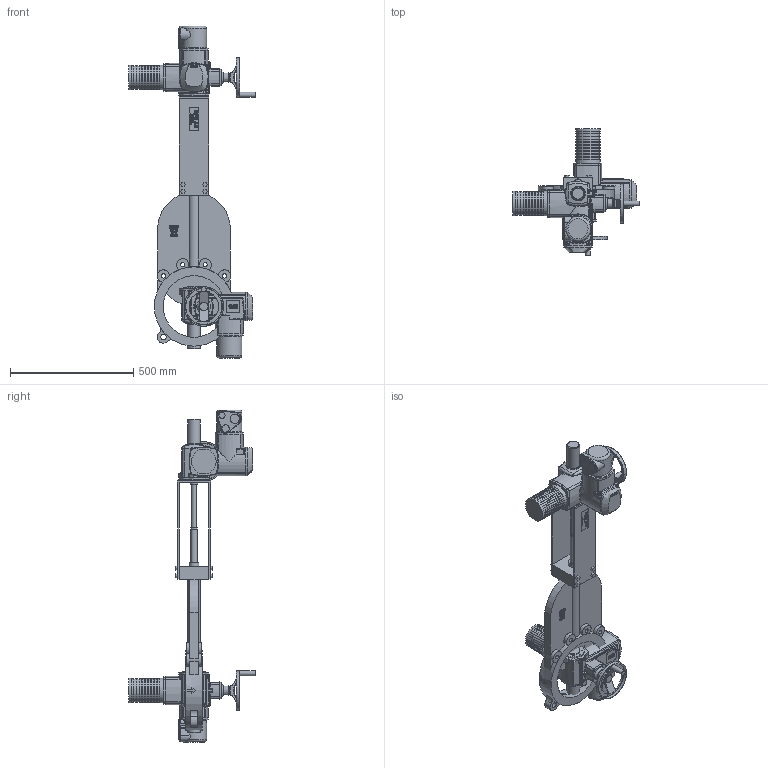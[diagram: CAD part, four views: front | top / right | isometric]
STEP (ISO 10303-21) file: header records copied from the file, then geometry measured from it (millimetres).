
FILE_DESCRIPTION( ( 'Unknown' ), '1' );
FILE_NAME( 'J:/Muud/ROOTSI BPS 3D vidinad/Nugasiibrid/Knife gate valve with electric actuator BPS/STEP formaat/BPS 2010250E knife gate valve DN250.stp', 'Unknown', ( 'Unknown' ), ( 'Unknown' ), 'PSStep 10.1', 'Unknown', ' ' );
FILE_SCHEMA( ( 'AUTOMOTIVE_DESIGN { 1 0 10303 214 1 1 1 1 }' ) );
Length unit declared in the file: millimetre
Products named in the file (3): Assem1; Knife gate valve for electric drive DN250 BPS; AUMA electric actuator sa07.1(sa07.5)
Bounding box: 511.9 x 511.9 x 1347 mm (x, y, z)
Volume: 29779724.3 mm3; surface area: 2353325 mm2
Topology: 4 solids, 4 shells, 2890 faces, 6978 edges, 4374 vertices
Faces by surface type: extrusion 1062, plane 660, cylinder 544, bspline 330, cone 154, torus 94, sphere 46
Full cylindrical faces by diameter (mm): 4.917 x8, 6.647 x8, 17.294 x8, 20 x6, 23 x4, 24 x4, 25 x4, 25.5 x2, 30 x8, 34 x2, 38.3 x2, 40 x2, 51.5 x2, 55 x2, 90 x2, 95 x20, 100 x22, 120 x2, 160 x2, 250 x4, 322 x2
Entity records: 73702 total; most frequent: CARTESIAN_POINT 31424, ORIENTED_EDGE 6642, DIRECTION 4972, EDGE_CURVE 3321, VERTEX_POINT 2158, VECTOR 2016, EDGE_LOOP 1733, B_SPLINE_CURVE_WITH_KNOTS 1641
